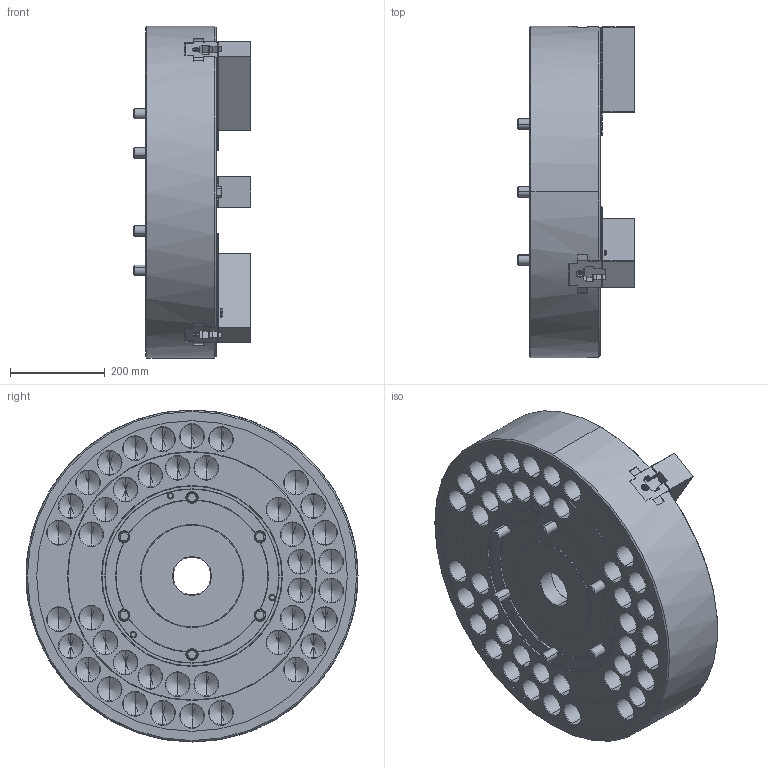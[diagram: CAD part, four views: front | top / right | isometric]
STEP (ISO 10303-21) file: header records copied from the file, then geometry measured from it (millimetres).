
FILE_DESCRIPTION (( 'STEP AP214' ), '1' );
FILE_NAME ('HOL_B-28.STEP', '2026-01-22T05:36:32', ( '' ), ( '' ), 'SwSTEP 2.0', 'SolidWorks 2022', '' );
FILE_SCHEMA (( 'AUTOMOTIVE_DESIGN' ));
Length unit declared in the file: millimetre
Products named in the file (11): Copy of 0030122150^HP用3Dモデル_B-28_61P264033; Copy of P32262^HP用3Dモデル_B-28_61P264033; Copy of 61P405602^HP用3Dモデル_B-28_61P264033; Copy of 0030120060^HP用3Dモデル_B-28_61P264033; Copy of P42577^HP用3Dモデル_B-28_61P264033; Copy of 0230004700^HP用3Dモデル_B-28_61P264033; HOL_B-28; Copy of 61P329613^HP用3Dモデル_B-28_61P264033; Copy of 0030106016^HP用3Dモデル_B-28_61P264033; Part6^HP用3Dモデル_B-28_61P264033; Copy of 61P809786^HP用3Dモデル_B-28_61P264033_社外提出用
Assembly tree (29 placements, depth 2):
  HOL_B-28
    Copy of P32262^HP用3Dモデル_B-28_61P264033  x3
    Copy of 61P405602^HP用3Dモデル_B-28_61P264033  x3
    Copy of 61P809786^HP用3Dモデル_B-28_61P264033_社外提出用
    Copy of 61P329613^HP用3Dモデル_B-28_61P264033
    Copy of P42577^HP用3Dモデル_B-28_61P264033
    Copy of 0030120060^HP用3Dモデル_B-28_61P264033  x6
    Copy of 0030122150^HP用3Dモデル_B-28_61P264033  x6
    Copy of 0230004700^HP用3Dモデル_B-28_61P264033
    Copy of 0030106016^HP用3Dモデル_B-28_61P264033  x6
    Part6^HP用3Dモデル_B-28_61P264033
Bounding box: 248 x 700 x 700 mm (x, y, z)
Volume: 46405941.2 mm3; surface area: 2866729.9 mm2
Topology: 29 solids, 35 shells, 8927 faces, 25381 edges, 16653 vertices
Faces by surface type: plane 5422, cylinder 1728, bspline 985, cone 706, torus 78, sphere 8
Entity records: 257049 total; most frequent: CARTESIAN_POINT 82118, ORIENTED_EDGE 39740, DIRECTION 31064, EDGE_CURVE 19870, VECTOR 14524, LINE 14524, VERTEX_POINT 13097, AXIS2_PLACEMENT_3D 8270
